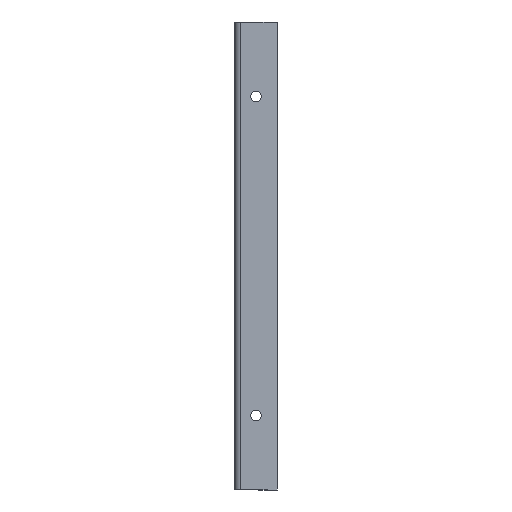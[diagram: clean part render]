
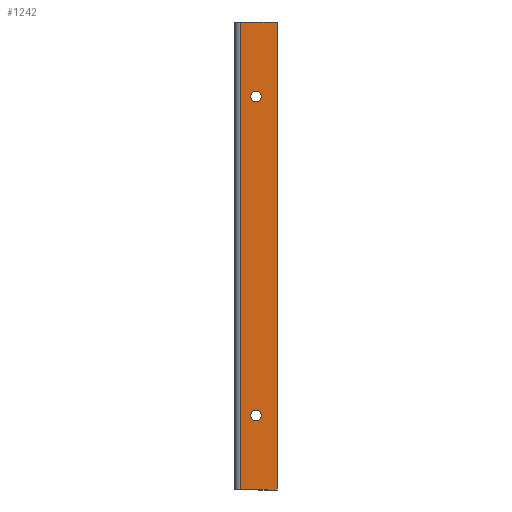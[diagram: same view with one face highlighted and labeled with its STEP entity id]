
A CAD part, front view. The second image highlights one B-rep face of the part: STEP entity #1242.
In plain terms, the highlighted planar face has unit normal (0, -1, 0).
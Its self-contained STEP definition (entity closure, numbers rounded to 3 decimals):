
#84 = CARTESIAN_POINT ( 'NONE',  ( 110., -2., -82.5 ) ) ;
#92 = DIRECTION ( 'NONE',  ( 0., -1., 0. ) ) ;
#171 = DIRECTION ( 'NONE',  ( -1., 0., 0. ) ) ;
#188 = EDGE_CURVE ( 'NONE', #1921, #3203, #2945, .T. ) ;
#217 = PLANE ( 'NONE',  #2907 ) ;
#292 = EDGE_CURVE ( 'NONE', #3097, #618, #2981, .T. ) ;
#341 = LINE ( 'NONE', #2964, #2419 ) ;
#381 = CIRCLE ( 'NONE', #3018, 2.5 ) ;
#462 = LINE ( 'NONE', #2451, #3534 ) ;
#473 = FACE_BOUND ( 'NONE', #1750, .T. ) ;
#529 = ORIENTED_EDGE ( 'NONE', *, *, #292, .F. ) ;
#541 = DIRECTION ( 'NONE',  ( 0., -1., 0. ) ) ;
#617 = EDGE_CURVE ( 'NONE', #618, #3244, #341, .T. ) ;
#618 = VERTEX_POINT ( 'NONE', #1833 ) ;
#700 = DIRECTION ( 'NONE',  ( 0., 0., -1. ) ) ;
#704 = EDGE_LOOP ( 'NONE', ( #2983, #3118, #3292, #529 ) ) ;
#804 = CARTESIAN_POINT ( 'NONE',  ( 120., -2., 100. ) ) ;
#811 = VECTOR ( 'NONE', #700, 1000. ) ;
#824 = ORIENTED_EDGE ( 'NONE', *, *, #1357, .F. ) ;
#992 = AXIS2_PLACEMENT_3D ( 'NONE', #1476, #1523, #3449 ) ;
#1024 = CARTESIAN_POINT ( 'NONE',  ( 120., -2., 100. ) ) ;
#1242 = ADVANCED_FACE ( 'NONE', ( #473, #2458, #2543 ), #217, .T. ) ;
#1255 = LINE ( 'NONE', #2769, #3527 ) ;
#1357 = EDGE_CURVE ( 'NONE', #3203, #1921, #381, .T. ) ;
#1394 = AXIS2_PLACEMENT_3D ( 'NONE', #2468, #1419, #3336 ) ;
#1419 = DIRECTION ( 'NONE',  ( 0., -1., 0. ) ) ;
#1476 = CARTESIAN_POINT ( 'NONE',  ( 110., -2., 65. ) ) ;
#1501 = CARTESIAN_POINT ( 'NONE',  ( 110., -2., 67.5 ) ) ;
#1514 = DIRECTION ( 'NONE',  ( 0., -1., 0. ) ) ;
#1523 = DIRECTION ( 'NONE',  ( 0., -1., 0. ) ) ;
#1532 = CARTESIAN_POINT ( 'NONE',  ( 110., -2., -87.5 ) ) ;
#1750 = EDGE_LOOP ( 'NONE', ( #824, #2663 ) ) ;
#1797 = EDGE_LOOP ( 'NONE', ( #3442, #3090 ) ) ;
#1833 = CARTESIAN_POINT ( 'NONE',  ( 120., -2., -120. ) ) ;
#1883 = VERTEX_POINT ( 'NONE', #2925 ) ;
#1921 = VERTEX_POINT ( 'NONE', #1532 ) ;
#1945 = DIRECTION ( 'NONE',  ( 0., 0., -1. ) ) ;
#2140 = DIRECTION ( 'NONE',  ( -1., 0., 0. ) ) ;
#2166 = VERTEX_POINT ( 'NONE', #2493 ) ;
#2419 = VECTOR ( 'NONE', #2140, 1000. ) ;
#2451 = CARTESIAN_POINT ( 'NONE',  ( 120., -2., 100. ) ) ;
#2458 = FACE_BOUND ( 'NONE', #1797, .T. ) ;
#2468 = CARTESIAN_POINT ( 'NONE',  ( 110., -2., 65. ) ) ;
#2493 = CARTESIAN_POINT ( 'NONE',  ( 110., -2., 62.5 ) ) ;
#2543 = FACE_OUTER_BOUND ( 'NONE', #704, .T. ) ;
#2583 = CIRCLE ( 'NONE', #1394, 2.5 ) ;
#2644 = EDGE_CURVE ( 'NONE', #2858, #2166, #2583, .T. ) ;
#2663 = ORIENTED_EDGE ( 'NONE', *, *, #188, .F. ) ;
#2683 = DIRECTION ( 'NONE',  ( 0., 0., -1. ) ) ;
#2769 = CARTESIAN_POINT ( 'NONE',  ( 102.736, -2., 100. ) ) ;
#2777 = CARTESIAN_POINT ( 'NONE',  ( 110., -2., -85. ) ) ;
#2778 = DIRECTION ( 'NONE',  ( 0., 0., -1. ) ) ;
#2847 = CARTESIAN_POINT ( 'NONE',  ( 120., -2., 100. ) ) ;
#2858 = VERTEX_POINT ( 'NONE', #1501 ) ;
#2907 = AXIS2_PLACEMENT_3D ( 'NONE', #1024, #1514, #171 ) ;
#2925 = CARTESIAN_POINT ( 'NONE',  ( 102.736, -2., 100. ) ) ;
#2929 = AXIS2_PLACEMENT_3D ( 'NONE', #2777, #92, #1945 ) ;
#2945 = CIRCLE ( 'NONE', #2929, 2.5 ) ;
#2964 = CARTESIAN_POINT ( 'NONE',  ( 120., -2., -120. ) ) ;
#2981 = LINE ( 'NONE', #2847, #811 ) ;
#2983 = ORIENTED_EDGE ( 'NONE', *, *, #3078, .F. ) ;
#3018 = AXIS2_PLACEMENT_3D ( 'NONE', #3226, #541, #2683 ) ;
#3021 = DIRECTION ( 'NONE',  ( 1., 0., 0. ) ) ;
#3078 = EDGE_CURVE ( 'NONE', #1883, #3097, #462, .T. ) ;
#3090 = ORIENTED_EDGE ( 'NONE', *, *, #3427, .F. ) ;
#3097 = VERTEX_POINT ( 'NONE', #804 ) ;
#3118 = ORIENTED_EDGE ( 'NONE', *, *, #3192, .T. ) ;
#3192 = EDGE_CURVE ( 'NONE', #1883, #3244, #1255, .T. ) ;
#3203 = VERTEX_POINT ( 'NONE', #84 ) ;
#3226 = CARTESIAN_POINT ( 'NONE',  ( 110., -2., -85. ) ) ;
#3244 = VERTEX_POINT ( 'NONE', #3342 ) ;
#3292 = ORIENTED_EDGE ( 'NONE', *, *, #617, .F. ) ;
#3336 = DIRECTION ( 'NONE',  ( 0., 0., -1. ) ) ;
#3342 = CARTESIAN_POINT ( 'NONE',  ( 102.736, -2., -120. ) ) ;
#3427 = EDGE_CURVE ( 'NONE', #2166, #2858, #3523, .T. ) ;
#3442 = ORIENTED_EDGE ( 'NONE', *, *, #2644, .F. ) ;
#3449 = DIRECTION ( 'NONE',  ( 0., 0., -1. ) ) ;
#3523 = CIRCLE ( 'NONE', #992, 2.5 ) ;
#3527 = VECTOR ( 'NONE', #2778, 1000. ) ;
#3534 = VECTOR ( 'NONE', #3021, 1000. ) ;
